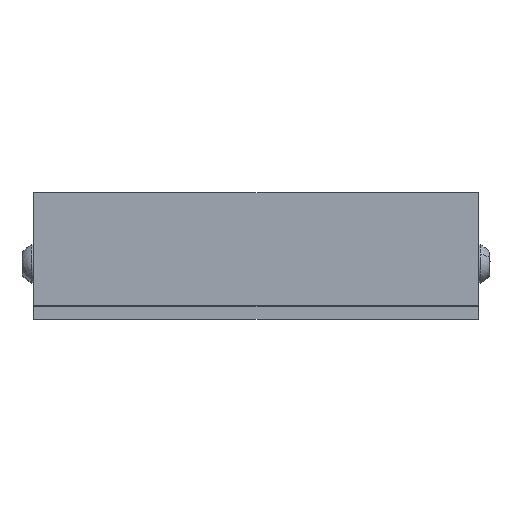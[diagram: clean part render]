
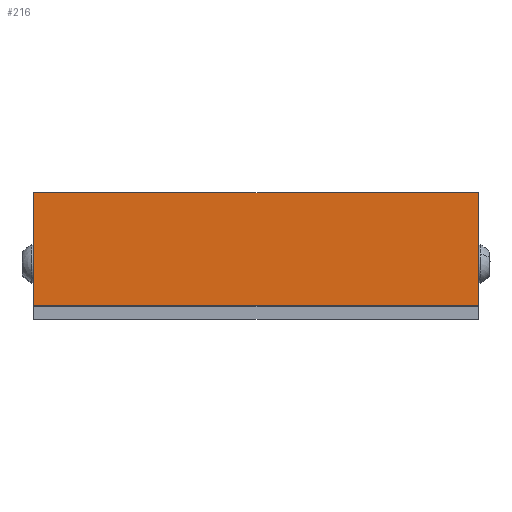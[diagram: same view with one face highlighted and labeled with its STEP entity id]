
A CAD part, top view. The second image highlights one B-rep face of the part: STEP entity #216.
In plain terms, the highlighted planar face has unit normal (0, 0, 1) as drawn and (1, 0, 0) by its records, which use the part's own axes.
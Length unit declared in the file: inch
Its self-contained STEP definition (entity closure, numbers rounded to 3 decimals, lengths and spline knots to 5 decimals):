
#9 = VERTEX_POINT ( 'NONE', #2174 ) ;
#216 = ADVANCED_FACE ( 'NONE', ( #3062 ), #4571, .F. ) ;
#227 = CARTESIAN_POINT ( 'NONE',  ( 4., 0.98698, 4.73237 ) ) ;
#379 = VECTOR ( 'NONE', #4296, 39.37008 ) ;
#430 = CARTESIAN_POINT ( 'NONE',  ( 4., 1.26257, 2.475 ) ) ;
#879 = VERTEX_POINT ( 'NONE', #430 ) ;
#883 = AXIS2_PLACEMENT_3D ( 'NONE', #227, #4180, #1885 ) ;
#1095 = DIRECTION ( 'NONE',  ( 0., 0., -1. ) ) ;
#1127 = EDGE_CURVE ( 'NONE', #879, #9, #4141, .T. ) ;
#1137 = VERTEX_POINT ( 'NONE', #1416 ) ;
#1199 = VECTOR ( 'NONE', #4618, 39.37008 ) ;
#1416 = CARTESIAN_POINT ( 'NONE',  ( 4., 0.00272, -2.475 ) ) ;
#1463 = CARTESIAN_POINT ( 'NONE',  ( 4., 0.98698, -2.475 ) ) ;
#1885 = DIRECTION ( 'NONE',  ( 0., 0., 1. ) ) ;
#1928 = CARTESIAN_POINT ( 'NONE',  ( 4., 0.00272, 2.475 ) ) ;
#2120 = ORIENTED_EDGE ( 'NONE', *, *, #1127, .F. ) ;
#2135 = VECTOR ( 'NONE', #1095, 39.37008 ) ;
#2174 = CARTESIAN_POINT ( 'NONE',  ( 4., 1.26257, -2.475 ) ) ;
#2296 = EDGE_CURVE ( 'NONE', #879, #2766, #4771, .T. ) ;
#2325 = ORIENTED_EDGE ( 'NONE', *, *, #3253, .T. ) ;
#2569 = CARTESIAN_POINT ( 'NONE',  ( 4., 1.26257, 2.475 ) ) ;
#2722 = CARTESIAN_POINT ( 'NONE',  ( 4., 0.00272, 4.73237 ) ) ;
#2766 = VERTEX_POINT ( 'NONE', #1928 ) ;
#3034 = EDGE_CURVE ( 'NONE', #2766, #1137, #3521, .T. ) ;
#3062 = FACE_OUTER_BOUND ( 'NONE', #3114, .T. ) ;
#3114 = EDGE_LOOP ( 'NONE', ( #2325, #2120, #4414, #5003 ) ) ;
#3156 = VECTOR ( 'NONE', #4720, 39.37008 ) ;
#3253 = EDGE_CURVE ( 'NONE', #1137, #9, #3814, .T. ) ;
#3521 = LINE ( 'NONE', #2722, #379 ) ;
#3814 = LINE ( 'NONE', #1463, #1199 ) ;
#4141 = LINE ( 'NONE', #2569, #2135 ) ;
#4180 = DIRECTION ( 'NONE',  ( -1., 0., 0. ) ) ;
#4296 = DIRECTION ( 'NONE',  ( 0., 0., -1. ) ) ;
#4414 = ORIENTED_EDGE ( 'NONE', *, *, #2296, .T. ) ;
#4571 = PLANE ( 'NONE',  #883 ) ;
#4618 = DIRECTION ( 'NONE',  ( 0., 1., 0. ) ) ;
#4720 = DIRECTION ( 'NONE',  ( 0., -1., 0. ) ) ;
#4744 = CARTESIAN_POINT ( 'NONE',  ( 4., 0.98698, 2.475 ) ) ;
#4771 = LINE ( 'NONE', #4744, #3156 ) ;
#5003 = ORIENTED_EDGE ( 'NONE', *, *, #3034, .T. ) ;
